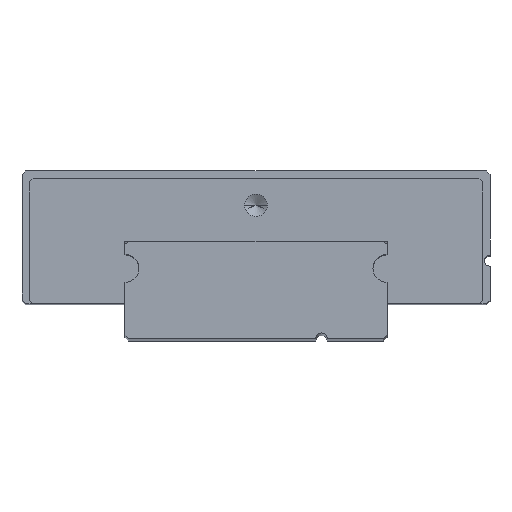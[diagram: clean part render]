
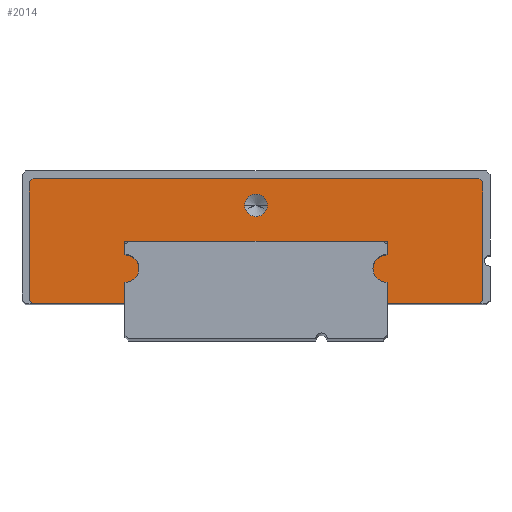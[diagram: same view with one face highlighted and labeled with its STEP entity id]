
A CAD part, top view. The second image highlights one B-rep face of the part: STEP entity #2014.
In plain terms, the highlighted planar face has unit normal (0, 0, 1).
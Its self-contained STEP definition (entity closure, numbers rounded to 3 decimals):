
#1143=CARTESIAN_POINT('',(-7.,3.75,20.5));
#1144=DIRECTION('',(0.,0.,-1.));
#1145=DIRECTION('',(0.,1.,0.));
#1146=AXIS2_PLACEMENT_3D('',#1143,#1144,#1145);
#1148=DIRECTION('',(1.,0.,0.));
#1149=VECTOR('',#1148,4.9);
#1150=CARTESIAN_POINT('',(-11.9,1.9,20.5));
#1151=LINE('',#1150,#1149);
#1152=DIRECTION('',(0.707,-0.707,0.));
#1153=VECTOR('',#1152,0.283);
#1154=CARTESIAN_POINT('',(-12.1,2.1,20.5));
#1155=LINE('',#1154,#1153);
#1156=DIRECTION('',(0.,-1.,0.));
#1157=VECTOR('',#1156,6.3);
#1158=CARTESIAN_POINT('',(-12.1,8.4,20.5));
#1159=LINE('',#1158,#1157);
#1160=DIRECTION('',(-0.707,-0.707,0.));
#1161=VECTOR('',#1160,0.283);
#1162=CARTESIAN_POINT('',(-11.9,8.6,20.5));
#1163=LINE('',#1162,#1161);
#1164=DIRECTION('',(-1.,0.,0.));
#1165=VECTOR('',#1164,23.8);
#1166=CARTESIAN_POINT('',(11.9,8.6,20.5));
#1167=LINE('',#1166,#1165);
#1168=DIRECTION('',(-0.707,0.707,0.));
#1169=VECTOR('',#1168,0.283);
#1170=CARTESIAN_POINT('',(12.1,8.4,20.5));
#1171=LINE('',#1170,#1169);
#1172=DIRECTION('',(0.707,0.707,0.));
#1173=VECTOR('',#1172,0.283);
#1174=CARTESIAN_POINT('',(11.9,1.9,20.5));
#1175=LINE('',#1174,#1173);
#1176=DIRECTION('',(1.,0.,0.));
#1177=VECTOR('',#1176,4.9);
#1178=CARTESIAN_POINT('',(7.,1.9,20.5));
#1179=LINE('',#1178,#1177);
#1180=CARTESIAN_POINT('',(7.,3.75,20.5));
#1181=DIRECTION('',(0.,0.,-1.));
#1182=DIRECTION('',(0.,-1.,0.));
#1183=AXIS2_PLACEMENT_3D('',#1180,#1181,#1182);
#1185=CARTESIAN_POINT('',(0.,7.15,20.5));
#1186=DIRECTION('',(0.,0.,-1.));
#1187=DIRECTION('',(-1.,0.,0.));
#1188=AXIS2_PLACEMENT_3D('',#1185,#1186,#1187);
#1190=CARTESIAN_POINT('',(0.,7.15,20.5));
#1191=DIRECTION('',(0.,0.,-1.));
#1192=DIRECTION('',(1.,0.,0.));
#1193=AXIS2_PLACEMENT_3D('',#1190,#1191,#1192);
#1271=DIRECTION('',(0.,-1.,0.));
#1272=VECTOR('',#1271,0.7);
#1273=CARTESIAN_POINT('',(-7.,5.2,20.5));
#1274=LINE('',#1273,#1272);
#1279=DIRECTION('',(-1.,0.,0.));
#1280=VECTOR('',#1279,14.);
#1281=CARTESIAN_POINT('',(7.,5.2,20.5));
#1282=LINE('',#1281,#1280);
#1287=DIRECTION('',(0.,1.,0.));
#1288=VECTOR('',#1287,0.7);
#1289=CARTESIAN_POINT('',(7.,4.5,20.5));
#1290=LINE('',#1289,#1288);
#1299=DIRECTION('',(0.,1.,0.));
#1300=VECTOR('',#1299,1.1);
#1301=CARTESIAN_POINT('',(7.,1.9,20.5));
#1302=LINE('',#1301,#1300);
#1605=DIRECTION('',(0.,-1.,0.));
#1606=VECTOR('',#1605,6.3);
#1607=CARTESIAN_POINT('',(12.1,8.4,20.5));
#1608=LINE('',#1607,#1606);
#1653=DIRECTION('',(0.,-1.,0.));
#1654=VECTOR('',#1653,1.1);
#1655=CARTESIAN_POINT('',(-7.,3.,20.5));
#1656=LINE('',#1655,#1654);
#1773=CARTESIAN_POINT('',(-12.1,8.4,20.5));
#1774=CARTESIAN_POINT('',(-12.1,2.1,20.5));
#1775=VERTEX_POINT('',#1773);
#1776=VERTEX_POINT('',#1774);
#1777=CARTESIAN_POINT('',(-11.9,1.9,20.5));
#1778=VERTEX_POINT('',#1777);
#1779=CARTESIAN_POINT('',(-7.,1.9,20.5));
#1780=VERTEX_POINT('',#1779);
#1781=CARTESIAN_POINT('',(-7.,3.,20.5));
#1782=VERTEX_POINT('',#1781);
#1783=CARTESIAN_POINT('',(-7.,5.2,20.5));
#1784=CARTESIAN_POINT('',(-7.,4.5,20.5));
#1785=VERTEX_POINT('',#1783);
#1786=VERTEX_POINT('',#1784);
#1787=CARTESIAN_POINT('',(7.,5.2,20.5));
#1788=VERTEX_POINT('',#1787);
#1789=CARTESIAN_POINT('',(7.,4.5,20.5));
#1790=VERTEX_POINT('',#1789);
#1791=CARTESIAN_POINT('',(7.,1.9,20.5));
#1792=CARTESIAN_POINT('',(7.,3.,20.5));
#1793=VERTEX_POINT('',#1791);
#1794=VERTEX_POINT('',#1792);
#1795=CARTESIAN_POINT('',(11.9,1.9,20.5));
#1796=VERTEX_POINT('',#1795);
#1797=CARTESIAN_POINT('',(12.1,2.1,20.5));
#1798=VERTEX_POINT('',#1797);
#1799=CARTESIAN_POINT('',(12.1,8.4,20.5));
#1800=VERTEX_POINT('',#1799);
#1801=CARTESIAN_POINT('',(11.9,8.6,20.5));
#1802=VERTEX_POINT('',#1801);
#1803=CARTESIAN_POINT('',(-11.9,8.6,20.5));
#1804=VERTEX_POINT('',#1803);
#1915=CARTESIAN_POINT('',(-0.6,7.15,20.5));
#1916=VERTEX_POINT('',#1915);
#1917=CARTESIAN_POINT('',(0.6,7.15,20.5));
#1918=VERTEX_POINT('',#1917);
#1969=CARTESIAN_POINT('',(12.5,4.2,20.5));
#1970=DIRECTION('',(0.,0.,1.));
#1971=DIRECTION('',(1.,0.,0.));
#1972=AXIS2_PLACEMENT_3D('',#1969,#1970,#1971);
#1973=PLANE('',#1972);
#1975=ORIENTED_EDGE('',*,*,#1974,.T.);
#1977=ORIENTED_EDGE('',*,*,#1976,.T.);
#1979=ORIENTED_EDGE('',*,*,#1978,.F.);
#1981=ORIENTED_EDGE('',*,*,#1980,.F.);
#1983=ORIENTED_EDGE('',*,*,#1982,.F.);
#1985=ORIENTED_EDGE('',*,*,#1984,.F.);
#1987=ORIENTED_EDGE('',*,*,#1986,.F.);
#1989=ORIENTED_EDGE('',*,*,#1988,.F.);
#1991=ORIENTED_EDGE('',*,*,#1990,.T.);
#1993=ORIENTED_EDGE('',*,*,#1992,.F.);
#1995=ORIENTED_EDGE('',*,*,#1994,.F.);
#1997=ORIENTED_EDGE('',*,*,#1996,.T.);
#1999=ORIENTED_EDGE('',*,*,#1998,.T.);
#2001=ORIENTED_EDGE('',*,*,#2000,.T.);
#2003=ORIENTED_EDGE('',*,*,#2002,.T.);
#2005=ORIENTED_EDGE('',*,*,#2004,.T.);
#2006=EDGE_LOOP('',(#1975,#1977,#1979,#1981,#1983,#1985,#1987,#1989,#1991,#1993,
#1995,#1997,#1999,#2001,#2003,#2005));
#2007=FACE_OUTER_BOUND('',#2006,.F.);
#2009=ORIENTED_EDGE('',*,*,#2008,.F.);
#2011=ORIENTED_EDGE('',*,*,#2010,.F.);
#2012=EDGE_LOOP('',(#2009,#2011));
#2013=FACE_BOUND('',#2012,.F.);
#2014=ADVANCED_FACE('',(#2007,#2013),#1973,.T.);
#1147=CIRCLE('',#1146,0.75);
#1184=CIRCLE('',#1183,0.75);
#1189=CIRCLE('',#1188,0.6);
#1194=CIRCLE('',#1193,0.6);
#1974=EDGE_CURVE('',#1786,#1782,#1147,.T.);
#1976=EDGE_CURVE('',#1782,#1780,#1656,.T.);
#1978=EDGE_CURVE('',#1778,#1780,#1151,.T.);
#1980=EDGE_CURVE('',#1776,#1778,#1155,.T.);
#1982=EDGE_CURVE('',#1775,#1776,#1159,.T.);
#1984=EDGE_CURVE('',#1804,#1775,#1163,.T.);
#1986=EDGE_CURVE('',#1802,#1804,#1167,.T.);
#1988=EDGE_CURVE('',#1800,#1802,#1171,.T.);
#1990=EDGE_CURVE('',#1800,#1798,#1608,.T.);
#1992=EDGE_CURVE('',#1796,#1798,#1175,.T.);
#1994=EDGE_CURVE('',#1793,#1796,#1179,.T.);
#1996=EDGE_CURVE('',#1793,#1794,#1302,.T.);
#1998=EDGE_CURVE('',#1794,#1790,#1184,.T.);
#2000=EDGE_CURVE('',#1790,#1788,#1290,.T.);
#2002=EDGE_CURVE('',#1788,#1785,#1282,.T.);
#2004=EDGE_CURVE('',#1785,#1786,#1274,.T.);
#2008=EDGE_CURVE('',#1916,#1918,#1189,.T.);
#2010=EDGE_CURVE('',#1918,#1916,#1194,.T.);
